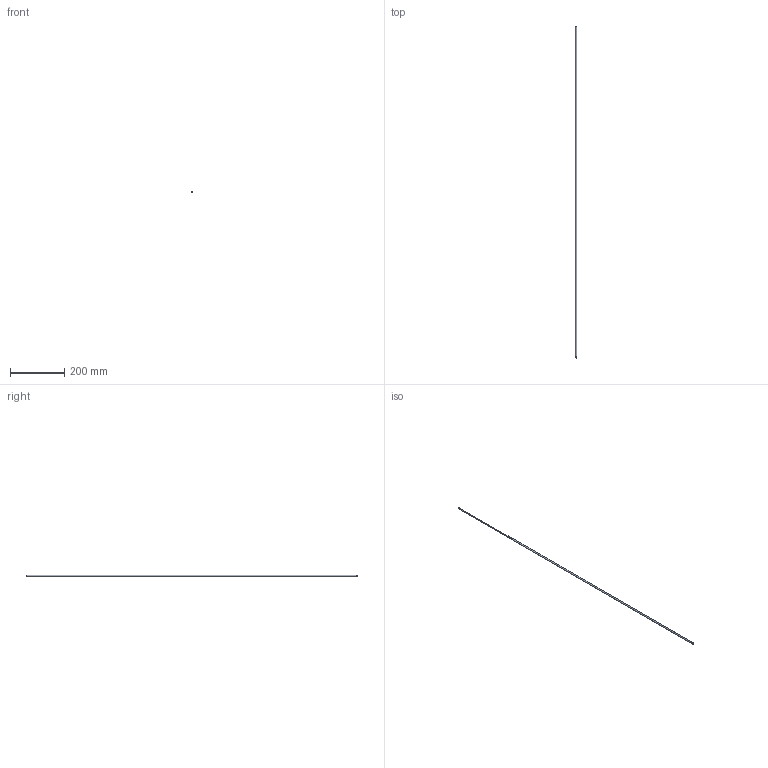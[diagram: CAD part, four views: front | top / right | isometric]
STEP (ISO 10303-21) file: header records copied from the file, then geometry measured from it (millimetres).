
FILE_DESCRIPTION(/* description */ (''),/* implementation_level */ '2;1');
FILE_NAME(/* name */ 'C:/Users/drich/Desktop/HF187T-48 v2.step',/* time_stamp */ '2019-12-30T13:35:49-06:00',/* author */ (''),/* organization */ (''),/* preprocessor_version */ 'ST-DEVELOPER v18',/* originating_system */ 'Autodesk Translation Framework v8.12.0.6',/* authorisation */ '');
FILE_SCHEMA (('AUTOMOTIVE_DESIGN { 1 0 10303 214 3 1 1 }'));
Length unit declared in the file: inch
Products named in the file (1): HF187T-48
Bounding box: 6.4 x 1219.2 x 6.4 mm (x, y, z)
Volume: 4458.4 mm3; surface area: 34499 mm2
Topology: 1 solids, 1 shells, 12 faces, 30 edges, 22 vertices
Faces by surface type: plane 4, cylinder 4, torus 3, cone 1
Full cylindrical faces by diameter (mm): 4.242 x1, 4.75 x1, 6.243 x1, 6.401 x1
Entity records: 426 total; most frequent: DIRECTION 81, CARTESIAN_POINT 65, ORIENTED_EDGE 60, AXIS2_PLACEMENT_3D 38, EDGE_CURVE 30, CIRCLE 25, VERTEX_POINT 22, EDGE_LOOP 16
